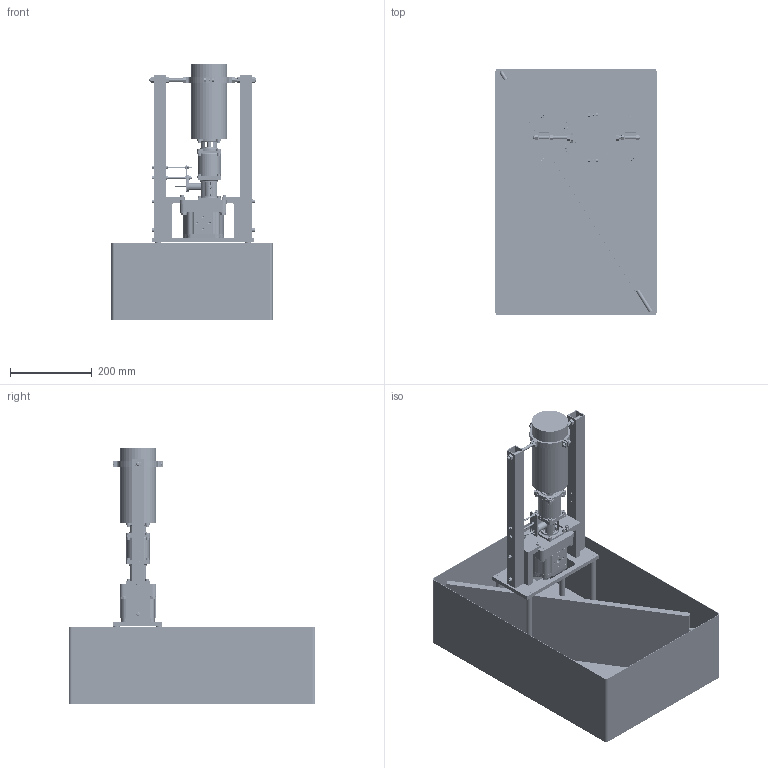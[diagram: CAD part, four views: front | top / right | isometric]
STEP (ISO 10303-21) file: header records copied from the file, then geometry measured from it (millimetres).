
FILE_DESCRIPTION(/* description */ (''),/* implementation_level */ '2;1');
FILE_NAME(/* name */ 'ASSY_CMS-BTL.stp',/* time_stamp */ '2020-11-30T16:19:33+01:00',/* author */ (''),/* organization */ (''),/* preprocessor_version */ 'ST-DEVELOPER v16.7',/* originating_system */ 'SIEMENS PLM Software NX 1892',/* authorisation */ '');
FILE_SCHEMA (('AUTOMOTIVE_DESIGN { 1 0 10303 214 3 1 1 1 }'));
Products named in the file (1): turc5398965Flvoj
Bounding box: 395 x 605 x 628 mm (x, y, z)
Volume: 5650570.6 mm3; surface area: 2756421.4 mm2
Topology: 195 solids, 195 shells, 4201 faces, 11059 edges, 7353 vertices
Faces by surface type: plane 2742, cylinder 740, cone 490, torus 127, extrusion 58, bspline 28, sphere 16
Full cylindrical faces by diameter (mm): 1.5 x5, 2 x1, 2.4 x1, 2.5 x1, 2.6 x1, 2.874 x1, 3.3 x1, 3.432 x8, 4 x2, 4.2 x26, 4.3 x9, 4.351 x2, 4.5 x11, 4.826 x28, 5 x8, 5.2 x8, 5.3 x24, 5.5 x19, 5.8 x1, 5.98 x9, 6 x16, 6.2 x4, 6.6 x2, 6.8 x14, 6.985 x6, 7 x6, 7.5 x1, 7.76 x8, 7.95 x3, 7.97 x6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
Entity records: 144859 total; most frequent: CARTESIAN_POINT 28715, DIRECTION 19880, ORIENTED_EDGE 19618, EDGE_CURVE 9809, VECTOR 7044, LINE 6986, VERTEX_POINT 6919, AXIS2_PLACEMENT_3D 6418
